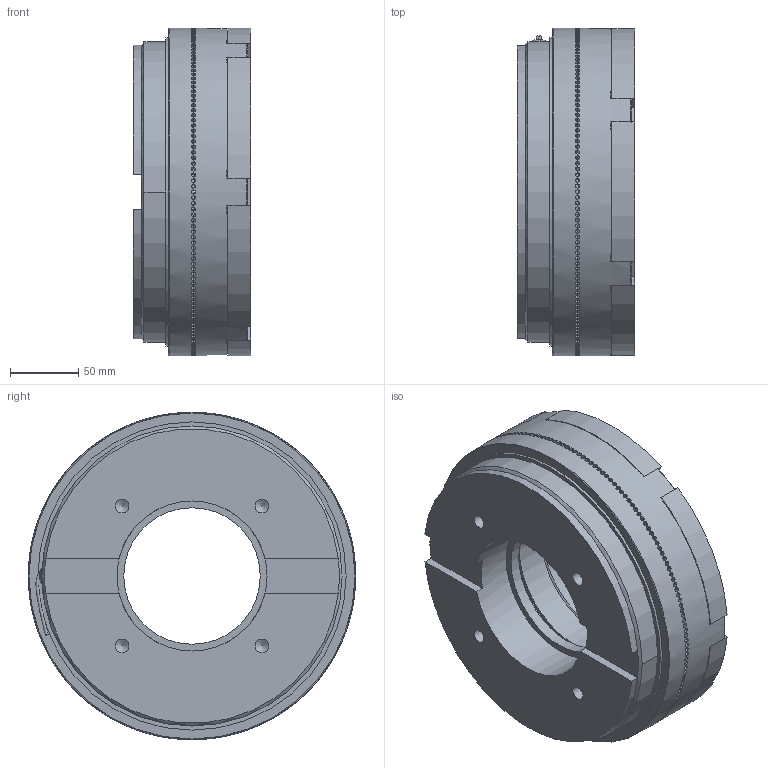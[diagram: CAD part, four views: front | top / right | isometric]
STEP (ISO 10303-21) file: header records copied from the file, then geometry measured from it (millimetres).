
FILE_DESCRIPTION(/* description */ (''),/* implementation_level */ '2;1');
FILE_NAME(/* name */ 'X:\INVENTOR\DISEGNI\07_Innesti_Elettmag_a_Dentini\07_09 EBLF_Z\07_09_240_01 EBLF240_Z\07_09_240_01 EBLF240_Z.stp',/* time_stamp */ '2023-02-13T11:30:45+01:00',/* author */ ('alessio'),/* organization */ (''),/* preprocessor_version */ 'ST-DEVELOPER v18.1',/* originating_system */ 'Autodesk Inventor 2021',/* authorisation */ '');
FILE_SCHEMA (('AUTOMOTIVE_DESIGN { 1 0 10303 214 3 1 1 }'));
Products named in the file (1): 07_09_240_01 EBLF240_Z
Bounding box: 86.5 x 240 x 240 mm (x, y, z)
Volume: 2736720.4 mm3; surface area: 357620.2 mm2
Topology: 4 solids, 8 shells, 1805 faces, 5295 edges, 3503 vertices
Faces by surface type: plane 1636, cylinder 99, bspline 36, cone 31, torus 3
Full cylindrical faces by diameter (mm): 4 x1, 4.4 x3, 4.917 x6, 7.9 x3, 8.5 x3, 9 x1, 10.106 x4, 11 x1, 12 x3, 13 x3, 100 x1, 110 x2, 112 x2, 161 x2, 163 x1, 187 x1, 189 x2, 220 x2, 222 x1, 224 x1, 226 x1, 240 x2
Entity records: 68528 total; most frequent: CARTESIAN_POINT 15839, DIRECTION 11921, ORIENTED_EDGE 10578, EDGE_CURVE 5289, AXIS2_PLACEMENT_3D 4973, VERTEX_POINT 3504, ELLIPSE 2148, LINE 1975
